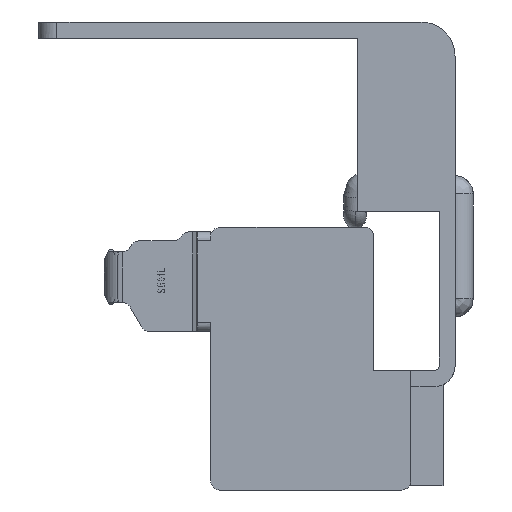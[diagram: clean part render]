
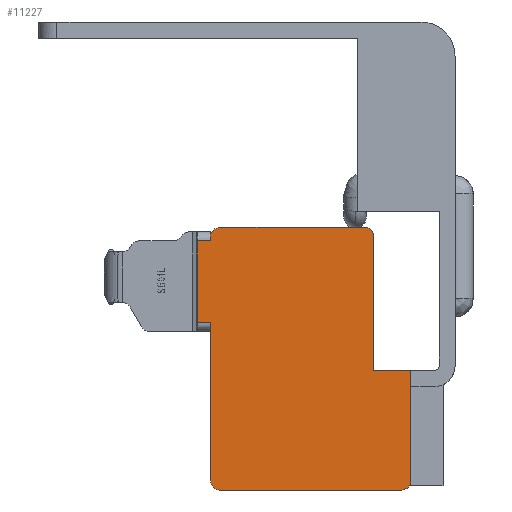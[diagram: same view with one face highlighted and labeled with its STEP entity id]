
A CAD part, left-side view. The second image highlights one B-rep face of the part: STEP entity #11227.
In plain terms, the highlighted planar face has unit normal (-1, 0, 0).
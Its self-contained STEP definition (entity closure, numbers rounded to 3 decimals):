
#62 = ORIENTED_EDGE ( 'NONE', *, *, #2816, .F. ) ;
#429 = CARTESIAN_POINT ( 'NONE',  ( -355.5, 9.738, 17.6 ) ) ;
#608 = ORIENTED_EDGE ( 'NONE', *, *, #739, .F. ) ;
#620 = ORIENTED_EDGE ( 'NONE', *, *, #8618, .F. ) ;
#739 = EDGE_CURVE ( 'NONE', #8084, #777, #4635, .T. ) ;
#777 = VERTEX_POINT ( 'NONE', #4370 ) ;
#991 = CARTESIAN_POINT ( 'NONE',  ( -355.5, 9., 16.6 ) ) ;
#1157 = ORIENTED_EDGE ( 'NONE', *, *, #5108, .F. ) ;
#1191 = CIRCLE ( 'NONE', #8533, 1. ) ;
#1203 = CARTESIAN_POINT ( 'NONE',  ( -355.5, 4.9, 17.1 ) ) ;
#1208 = DIRECTION ( 'NONE',  ( 1., 0., 0. ) ) ;
#1313 = CARTESIAN_POINT ( 'NONE',  ( -355.5, 10., 17.6 ) ) ;
#1421 = VERTEX_POINT ( 'NONE', #991 ) ;
#1561 = VECTOR ( 'NONE', #6071, 1000. ) ;
#1579 = VERTEX_POINT ( 'NONE', #10814 ) ;
#1627 = EDGE_CURVE ( 'NONE', #1579, #10114, #6540, .T. ) ;
#1891 = CARTESIAN_POINT ( 'NONE',  ( -355.5, 28.47, 1.77 ) ) ;
#2025 = ORIENTED_EDGE ( 'NONE', *, *, #3922, .F. ) ;
#2123 = LINE ( 'NONE', #3730, #9010 ) ;
#2424 = VERTEX_POINT ( 'NONE', #8389 ) ;
#2585 = DIRECTION ( 'NONE',  ( 0., 0., 1. ) ) ;
#2764 = VECTOR ( 'NONE', #11109, 1000. ) ;
#2816 = EDGE_CURVE ( 'NONE', #10906, #5618, #7852, .T. ) ;
#3420 = CARTESIAN_POINT ( 'NONE',  ( -355.5, 5.008, -10.952 ) ) ;
#3523 = LINE ( 'NONE', #10694, #5716 ) ;
#3719 = EDGE_LOOP ( 'NONE', ( #6730, #7425, #6126, #620, #62, #5150, #12111, #9145, #5530, #9142, #4592, #2025, #608, #1157 ) ) ;
#3730 = CARTESIAN_POINT ( 'NONE',  ( -355.5, 9., 17.1 ) ) ;
#3788 = DIRECTION ( 'NONE',  ( 0., -1., 0. ) ) ;
#3800 = DIRECTION ( 'NONE',  ( 1., 0., 0. ) ) ;
#3922 = EDGE_CURVE ( 'NONE', #777, #1579, #5374, .T. ) ;
#4016 = LINE ( 'NONE', #5639, #9279 ) ;
#4366 = CARTESIAN_POINT ( 'NONE',  ( -355.5, 5.638, -11.43 ) ) ;
#4370 = CARTESIAN_POINT ( 'NONE',  ( -355.5, 4.9, -10.43 ) ) ;
#4592 = ORIENTED_EDGE ( 'NONE', *, *, #1627, .F. ) ;
#4621 = AXIS2_PLACEMENT_3D ( 'NONE', #6816, #1208, #7751 ) ;
#4635 = LINE ( 'NONE', #1203, #7146 ) ;
#4766 = CARTESIAN_POINT ( 'NONE',  ( -355.5, 28.47, 7.1 ) ) ;
#4806 = CARTESIAN_POINT ( 'NONE',  ( -355.5, 27., 7.1 ) ) ;
#4982 = LINE ( 'NONE', #11187, #2764 ) ;
#5108 = EDGE_CURVE ( 'NONE', #2424, #8084, #6789, .T. ) ;
#5150 = ORIENTED_EDGE ( 'NONE', *, *, #10837, .F. ) ;
#5159 = CARTESIAN_POINT ( 'NONE',  ( -355.5, 9.108, 17.122 ) ) ;
#5340 = VERTEX_POINT ( 'NONE', #10834 ) ;
#5374 = B_SPLINE_CURVE_WITH_KNOTS ( 'NONE', 3,
 ( #8093, #9039, #3420, #9990, #4366, #10964 ),
 .UNSPECIFIED., .F., .F.,
 ( 4, 2, 4 ),
 ( 0., 0.5, 1. ),
 .UNSPECIFIED. ) ;
#5530 = ORIENTED_EDGE ( 'NONE', *, *, #7065, .F. ) ;
#5564 = DIRECTION ( 'NONE',  ( 0., 0., -1. ) ) ;
#5586 = DIRECTION ( 'NONE',  ( 1., 0., 0. ) ) ;
#5607 = DIRECTION ( 'NONE',  ( 0., 0., -1. ) ) ;
#5618 = VERTEX_POINT ( 'NONE', #6624 ) ;
#5639 = CARTESIAN_POINT ( 'NONE',  ( -355.5, 27., 10.57 ) ) ;
#5716 = VECTOR ( 'NONE', #5905, 1000. ) ;
#5905 = DIRECTION ( 'NONE',  ( 0., -1., 0. ) ) ;
#6048 = EDGE_CURVE ( 'NONE', #1421, #2424, #2123, .T. ) ;
#6071 = DIRECTION ( 'NONE',  ( 0., 1., 0. ) ) ;
#6112 = CARTESIAN_POINT ( 'NONE',  ( -355.5, 9., 16.6 ) ) ;
#6126 = ORIENTED_EDGE ( 'NONE', *, *, #8303, .F. ) ;
#6157 = CARTESIAN_POINT ( 'NONE',  ( -355.5, 28.47, -11.43 ) ) ;
#6182 = CARTESIAN_POINT ( 'NONE',  ( -355.5, 28.47, 16.1 ) ) ;
#6268 = LINE ( 'NONE', #11021, #10986 ) ;
#6540 = LINE ( 'NONE', #6157, #1561 ) ;
#6579 = DIRECTION ( 'NONE',  ( 0., 0., 1. ) ) ;
#6593 = CARTESIAN_POINT ( 'NONE',  ( -355.5, 28.47, 17.1 ) ) ;
#6615 = VECTOR ( 'NONE', #10402, 1000. ) ;
#6624 = CARTESIAN_POINT ( 'NONE',  ( -355.5, 27., 16.6 ) ) ;
#6730 = ORIENTED_EDGE ( 'NONE', *, *, #6048, .F. ) ;
#6789 = LINE ( 'NONE', #1891, #11506 ) ;
#6816 = CARTESIAN_POINT ( 'NONE',  ( -355.5, 26., -10.43 ) ) ;
#7065 = EDGE_CURVE ( 'NONE', #12044, #9243, #4016, .T. ) ;
#7146 = VECTOR ( 'NONE', #5564, 1000. ) ;
#7362 = AXIS2_PLACEMENT_3D ( 'NONE', #6593, #3800, #10382 ) ;
#7377 = CARTESIAN_POINT ( 'NONE',  ( -355.5, 10., 17.6 ) ) ;
#7425 = ORIENTED_EDGE ( 'NONE', *, *, #7897, .F. ) ;
#7751 = DIRECTION ( 'NONE',  ( 0., 0., -1. ) ) ;
#7852 = LINE ( 'NONE', #10464, #10038 ) ;
#7897 = EDGE_CURVE ( 'NONE', #11442, #1421, #9735, .T. ) ;
#8084 = VERTEX_POINT ( 'NONE', #9358 ) ;
#8093 = CARTESIAN_POINT ( 'NONE',  ( -355.5, 4.9, -10.43 ) ) ;
#8146 = EDGE_CURVE ( 'NONE', #9243, #10824, #9115, .T. ) ;
#8303 = EDGE_CURVE ( 'NONE', #5340, #11442, #3523, .T. ) ;
#8389 = CARTESIAN_POINT ( 'NONE',  ( -355.5, 9., 1.77 ) ) ;
#8533 = AXIS2_PLACEMENT_3D ( 'NONE', #11239, #5586, #12176 ) ;
#8571 = CARTESIAN_POINT ( 'NONE',  ( -355.5, 27., 16.1 ) ) ;
#8618 = EDGE_CURVE ( 'NONE', #5618, #5340, #1191, .T. ) ;
#8972 = VERTEX_POINT ( 'NONE', #6182 ) ;
#9010 = VECTOR ( 'NONE', #5607, 1000. ) ;
#9039 = CARTESIAN_POINT ( 'NONE',  ( -355.5, 4.9, -10.692 ) ) ;
#9115 = LINE ( 'NONE', #4766, #6615 ) ;
#9142 = ORIENTED_EDGE ( 'NONE', *, *, #12003, .F. ) ;
#9145 = ORIENTED_EDGE ( 'NONE', *, *, #8146, .F. ) ;
#9243 = VERTEX_POINT ( 'NONE', #4806 ) ;
#9279 = VECTOR ( 'NONE', #6579, 1000. ) ;
#9358 = CARTESIAN_POINT ( 'NONE',  ( -355.5, 4.9, 1.77 ) ) ;
#9374 = PLANE ( 'NONE',  #7362 ) ;
#9735 = B_SPLINE_CURVE_WITH_KNOTS ( 'NONE', 3,
 ( #1313, #429, #10812, #5159, #11761, #6112 ),
 .UNSPECIFIED., .F., .F.,
 ( 4, 2, 4 ),
 ( 0., 0.5, 1. ),
 .UNSPECIFIED. ) ;
#9990 = CARTESIAN_POINT ( 'NONE',  ( -355.5, 5.378, -11.322 ) ) ;
#10038 = VECTOR ( 'NONE', #10516, 1000. ) ;
#10114 = VERTEX_POINT ( 'NONE', #11307 ) ;
#10218 = CIRCLE ( 'NONE', #4621, 1. ) ;
#10382 = DIRECTION ( 'NONE',  ( 0., 0., -1. ) ) ;
#10402 = DIRECTION ( 'NONE',  ( 0., 1., 0. ) ) ;
#10464 = CARTESIAN_POINT ( 'NONE',  ( -355.5, 27., 17.1 ) ) ;
#10516 = DIRECTION ( 'NONE',  ( 0., 0., 1. ) ) ;
#10694 = CARTESIAN_POINT ( 'NONE',  ( -355.5, 28.47, 17.6 ) ) ;
#10812 = CARTESIAN_POINT ( 'NONE',  ( -355.5, 9.478, 17.492 ) ) ;
#10814 = CARTESIAN_POINT ( 'NONE',  ( -355.5, 5.9, -11.43 ) ) ;
#10824 = VERTEX_POINT ( 'NONE', #12038 ) ;
#10834 = CARTESIAN_POINT ( 'NONE',  ( -355.5, 26., 17.6 ) ) ;
#10837 = EDGE_CURVE ( 'NONE', #8972, #10906, #4982, .T. ) ;
#10906 = VERTEX_POINT ( 'NONE', #8571 ) ;
#10964 = CARTESIAN_POINT ( 'NONE',  ( -355.5, 5.9, -11.43 ) ) ;
#10986 = VECTOR ( 'NONE', #2585, 1000. ) ;
#11021 = CARTESIAN_POINT ( 'NONE',  ( -355.5, 28.47, 17.1 ) ) ;
#11027 = EDGE_CURVE ( 'NONE', #10824, #8972, #6268, .T. ) ;
#11109 = DIRECTION ( 'NONE',  ( 0., -1., 0. ) ) ;
#11187 = CARTESIAN_POINT ( 'NONE',  ( -355.5, 28.47, 16.1 ) ) ;
#11227 = ADVANCED_FACE ( 'NONE', ( #11724 ), #9374, .F. ) ;
#11239 = CARTESIAN_POINT ( 'NONE',  ( -355.5, 26., 16.6 ) ) ;
#11307 = CARTESIAN_POINT ( 'NONE',  ( -355.5, 26., -11.43 ) ) ;
#11442 = VERTEX_POINT ( 'NONE', #7377 ) ;
#11506 = VECTOR ( 'NONE', #3788, 1000. ) ;
#11609 = CARTESIAN_POINT ( 'NONE',  ( -355.5, 27., -10.43 ) ) ;
#11724 = FACE_OUTER_BOUND ( 'NONE', #3719, .T. ) ;
#11761 = CARTESIAN_POINT ( 'NONE',  ( -355.5, 9., 16.862 ) ) ;
#12003 = EDGE_CURVE ( 'NONE', #10114, #12044, #10218, .T. ) ;
#12038 = CARTESIAN_POINT ( 'NONE',  ( -355.5, 28.47, 7.1 ) ) ;
#12044 = VERTEX_POINT ( 'NONE', #11609 ) ;
#12111 = ORIENTED_EDGE ( 'NONE', *, *, #11027, .F. ) ;
#12176 = DIRECTION ( 'NONE',  ( 0., 0., 1. ) ) ;
